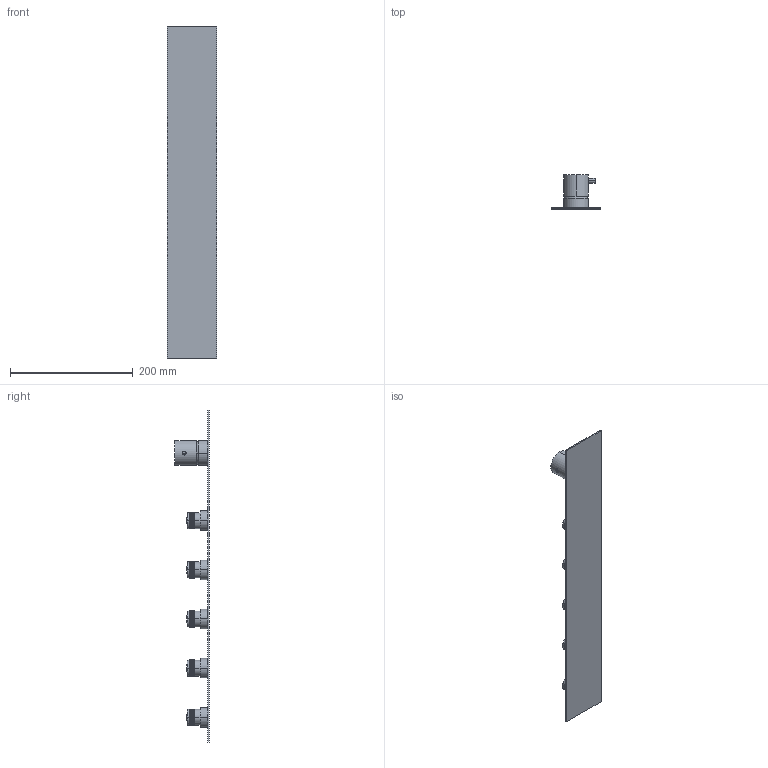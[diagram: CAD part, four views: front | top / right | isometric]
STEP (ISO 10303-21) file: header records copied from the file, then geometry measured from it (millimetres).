
FILE_DESCRIPTION((''),'2;1');
FILE_NAME('69000V521_SW0001','2025-11-25T15:13:22',('carloff'),(''),'CREO PARAMETRIC BY PTC INC, 2022014','CREO PARAMETRIC BY PTC INC, 2022014','');
FILE_SCHEMA(('CONFIG_CONTROL_DESIGN'));
Products named in the file (1): 69000V521_SW0001
Bounding box: 80 x 55.7 x 540 mm (x, y, z)
Volume: 261942.3 mm3; surface area: 112765 mm2
Topology: 1 solids, 1 shells, 8223 faces, 20490 edges, 13542 vertices
Faces by surface type: bspline 6402, cylinder 1750, plane 31, torus 26, sphere 12, cone 2
Entity records: 349008 total; most frequent: CARTESIAN_POINT 196805, ORIENTED_EDGE 40956, EDGE_CURVE 20478, VERTEX_POINT 13542, B_SPLINE_CURVE_WITH_KNOTS 12966, DIRECTION 11906, EDGE_LOOP 9510, FACE_OUTER_BOUND 8223
